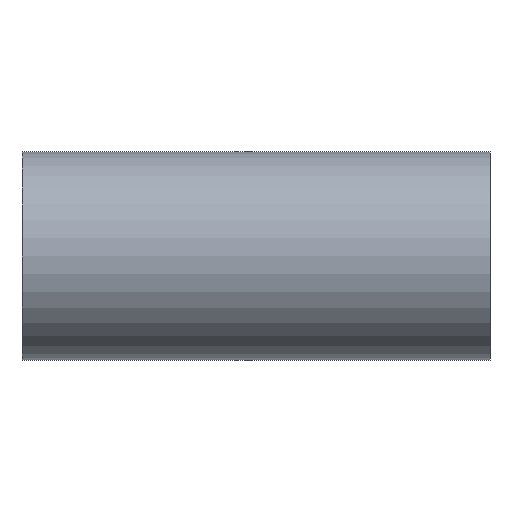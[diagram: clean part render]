
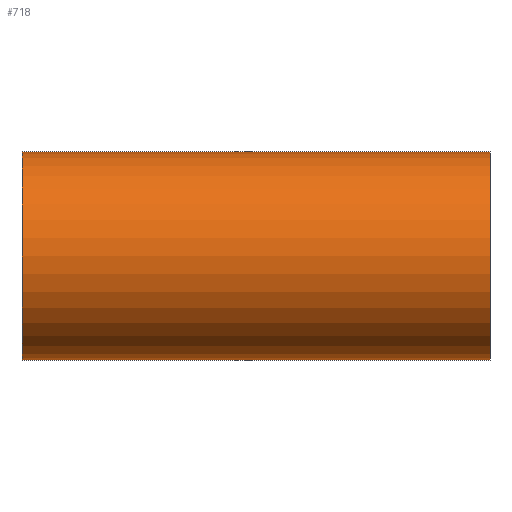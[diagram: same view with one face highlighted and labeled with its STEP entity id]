
A CAD part, front view. The second image highlights one B-rep face of the part: STEP entity #718.
In plain terms, the highlighted cylindrical face has radius 38.1 mm (diameter 76.2 mm), a partial arc.
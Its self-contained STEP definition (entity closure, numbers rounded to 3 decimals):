
#21 = CARTESIAN_POINT ( 'NONE',  ( -85.7, 0., -38.1 ) ) ;
#101 = CARTESIAN_POINT ( 'NONE',  ( -85.7, 0., -38.1 ) ) ;
#144 = DIRECTION ( 'NONE',  ( 1., 0., 0. ) ) ;
#182 = VERTEX_POINT ( 'NONE', #678 ) ;
#185 = EDGE_CURVE ( 'NONE', #498, #892, #316, .T. ) ;
#214 = VECTOR ( 'NONE', #440, 1000. ) ;
#239 = CARTESIAN_POINT ( 'NONE',  ( -85.7, 0., 0. ) ) ;
#254 = DIRECTION ( 'NONE',  ( 0., 0., -1. ) ) ;
#284 = EDGE_CURVE ( 'NONE', #364, #182, #950, .T. ) ;
#316 = LINE ( 'NONE', #627, #214 ) ;
#335 = ORIENTED_EDGE ( 'NONE', *, *, #1237, .T. ) ;
#364 = VERTEX_POINT ( 'NONE', #101 ) ;
#405 = CARTESIAN_POINT ( 'NONE',  ( 85.7, 0., 38.1 ) ) ;
#408 = CARTESIAN_POINT ( 'NONE',  ( -85.7, 0., 0. ) ) ;
#440 = DIRECTION ( 'NONE',  ( 1., 0., 0. ) ) ;
#463 = DIRECTION ( 'NONE',  ( 1., 0., 0. ) ) ;
#479 = CIRCLE ( 'NONE', #1217, 38.1 ) ;
#488 = DIRECTION ( 'NONE',  ( 0., 0., -1. ) ) ;
#498 = VERTEX_POINT ( 'NONE', #904 ) ;
#539 = CIRCLE ( 'NONE', #1127, 38.1 ) ;
#627 = CARTESIAN_POINT ( 'NONE',  ( -85.7, 0., 38.1 ) ) ;
#678 = CARTESIAN_POINT ( 'NONE',  ( 85.7, 0., -38.1 ) ) ;
#688 = DIRECTION ( 'NONE',  ( 1., 0., 0. ) ) ;
#690 = VECTOR ( 'NONE', #688, 1000. ) ;
#718 = ADVANCED_FACE ( 'NONE', ( #1059 ), #800, .T. ) ;
#800 = CYLINDRICAL_SURFACE ( 'NONE', #1026, 38.1 ) ;
#818 = ORIENTED_EDGE ( 'NONE', *, *, #284, .T. ) ;
#885 = DIRECTION ( 'NONE',  ( 0., 0., -1. ) ) ;
#892 = VERTEX_POINT ( 'NONE', #405 ) ;
#904 = CARTESIAN_POINT ( 'NONE',  ( -85.7, 0., 38.1 ) ) ;
#920 = DIRECTION ( 'NONE',  ( -1., 0., 0. ) ) ;
#950 = LINE ( 'NONE', #21, #690 ) ;
#1007 = ORIENTED_EDGE ( 'NONE', *, *, #1220, .T. ) ;
#1026 = AXIS2_PLACEMENT_3D ( 'NONE', #239, #144, #254 ) ;
#1033 = EDGE_LOOP ( 'NONE', ( #1111, #1007, #818, #335 ) ) ;
#1035 = CARTESIAN_POINT ( 'NONE',  ( 85.7, 0., 0. ) ) ;
#1059 = FACE_OUTER_BOUND ( 'NONE', #1033, .T. ) ;
#1111 = ORIENTED_EDGE ( 'NONE', *, *, #185, .F. ) ;
#1127 = AXIS2_PLACEMENT_3D ( 'NONE', #408, #463, #488 ) ;
#1217 = AXIS2_PLACEMENT_3D ( 'NONE', #1035, #920, #885 ) ;
#1220 = EDGE_CURVE ( 'NONE', #498, #364, #539, .T. ) ;
#1237 = EDGE_CURVE ( 'NONE', #182, #892, #479, .T. ) ;
